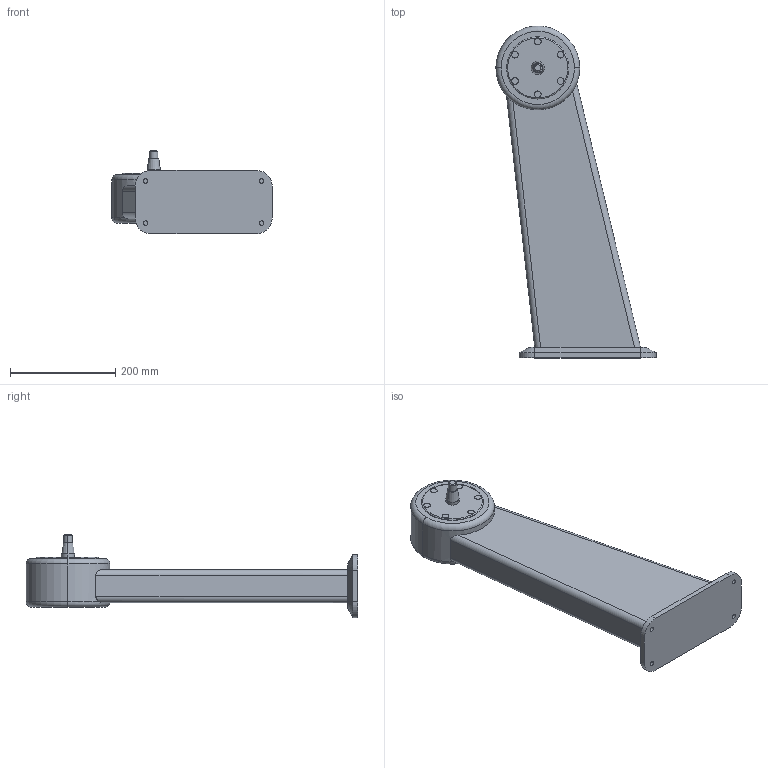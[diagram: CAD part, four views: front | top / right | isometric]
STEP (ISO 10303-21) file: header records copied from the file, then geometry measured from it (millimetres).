
FILE_DESCRIPTION (( 'STEP AP214' ), '1' );
FILE_NAME ('WP700_H550_+10.STEP', '2014-08-14T09:42:06', ( '' ), ( '' ), 'SwSTEP 2.0', 'SolidWorks 2014', '' );
FILE_SCHEMA (( 'AUTOMOTIVE_DESIGN' ));
Length unit declared in the file: millimetre
Products named in the file (1): WP700_H550_+10
Bounding box: 304.06 x 629.5 x 158.3 mm (x, y, z)
Volume: 7271789.2 mm3; surface area: 343552.9 mm2
Topology: 1 solids, 1 shells, 79 faces, 171 edges, 108 vertices
Faces by surface type: cylinder 36, plane 29, cone 8, torus 6
Entity records: 2294 total; most frequent: CARTESIAN_POINT 475, DIRECTION 408, ORIENTED_EDGE 342, EDGE_CURVE 171, AXIS2_PLACEMENT_3D 167, VERTEX_POINT 108, EDGE_LOOP 93, CIRCLE 87
